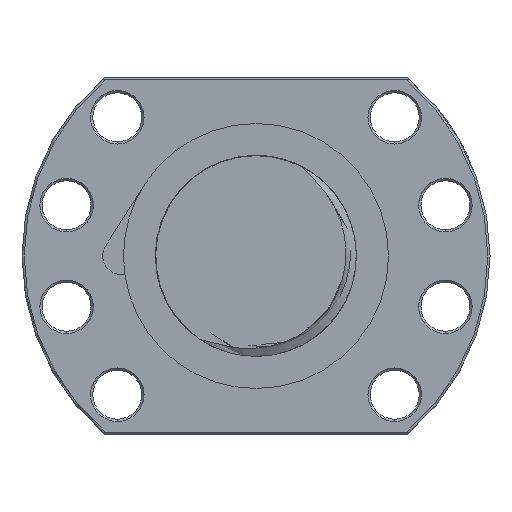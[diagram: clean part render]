
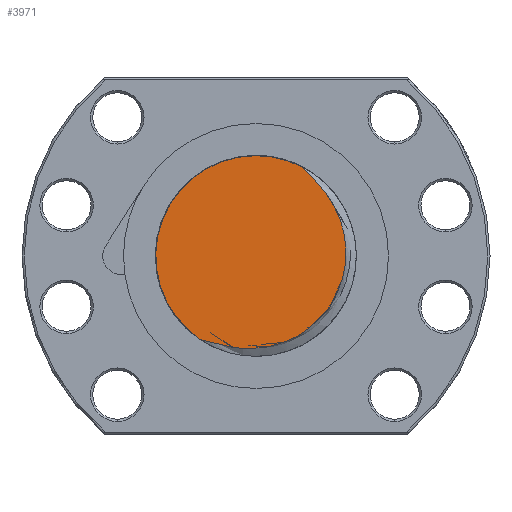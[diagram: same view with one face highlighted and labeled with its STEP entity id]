
A CAD part, left-side view. The second image highlights one B-rep face of the part: STEP entity #3971.
In plain terms, the highlighted planar face has unit normal (-1, 0, 0).
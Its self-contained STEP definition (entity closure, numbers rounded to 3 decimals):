
#3733 = EDGE_CURVE ( 'NONE', #3734, #3735, #20021, .T. ) ;
#3734 = VERTEX_POINT ( 'NONE', #20017 ) ;
#3735 = VERTEX_POINT ( 'NONE', #20016 ) ;
#3971 = ADVANCED_FACE ( 'NONE', ( #24610 ), #24609, .F. ) ;
#3972 = EDGE_LOOP ( 'NONE', ( #4018, #4019, #4021 ) ) ;
#4003 = EDGE_CURVE ( 'NONE', #3735, #4004, #24622, .T. ) ;
#4004 = VERTEX_POINT ( 'NONE', #24731 ) ;
#4018 = ORIENTED_EDGE ( 'NONE', *, *, #3733, .F. ) ;
#4019 = ORIENTED_EDGE ( 'NONE', *, *, #4020, .T. ) ;
#4020 = EDGE_CURVE ( 'NONE', #3734, #4004, #24855, .T. ) ;
#4021 = ORIENTED_EDGE ( 'NONE', *, *, #4003, .F. ) ;
#20016 = CARTESIAN_POINT ( 'NONE',  ( -149., 0., 22.5 ) ) ;
#20017 = CARTESIAN_POINT ( 'NONE',  ( -149., 12.337, -18.816 ) ) ;
#20018 = DIRECTION ( 'NONE',  ( 0., 1., 0. ) ) ;
#20019 = DIRECTION ( 'NONE',  ( 1., 0., 0. ) ) ;
#20020 = AXIS2_PLACEMENT_3D ( 'NONE', #20027, #20019, #20018 ) ;
#20021 = CIRCLE ( 'NONE', #20020, 22.5 ) ;
#20027 = CARTESIAN_POINT ( 'NONE',  ( -149., 0., 0. ) ) ;
#24537 = CARTESIAN_POINT ( 'NONE',  ( -149., 0., 0. ) ) ;
#24602 = DIRECTION ( 'NONE',  ( 0., 0., -1. ) ) ;
#24603 = DIRECTION ( 'NONE',  ( 1., 0., 0. ) ) ;
#24604 = AXIS2_PLACEMENT_3D ( 'NONE', #24537, #24603, #24602 ) ;
#24609 = PLANE ( 'NONE',  #24604 ) ;
#24610 = FACE_OUTER_BOUND ( 'NONE', #3972, .T. ) ;
#24622 = CIRCLE ( 'NONE', #24735, 22.5 ) ;
#24731 = CARTESIAN_POINT ( 'NONE',  ( -149., -10.131, 20.09 ) ) ;
#24732 = DIRECTION ( 'NONE',  ( 0., 1., 0. ) ) ;
#24733 = DIRECTION ( 'NONE',  ( 1., 0., 0. ) ) ;
#24734 = CARTESIAN_POINT ( 'NONE',  ( -149., 0., 0. ) ) ;
#24735 = AXIS2_PLACEMENT_3D ( 'NONE', #24734, #24733, #24732 ) ;
#24823 = CARTESIAN_POINT ( 'NONE',  ( -149., -16.593, -11.232 ) ) ;
#24824 = CARTESIAN_POINT ( 'NONE',  ( -149., -15.972, -12.093 ) ) ;
#24825 = CARTESIAN_POINT ( 'NONE',  ( -149., -15.757, -12.376 ) ) ;
#24826 = CARTESIAN_POINT ( 'NONE',  ( -149., -15.316, -12.928 ) ) ;
#24827 = CARTESIAN_POINT ( 'NONE',  ( -149., -15.089, -13.198 ) ) ;
#24828 = CARTESIAN_POINT ( 'NONE',  ( -149., -13.927, -14.514 ) ) ;
#24829 = CARTESIAN_POINT ( 'NONE',  ( -149., -12.903, -15.467 ) ) ;
#24830 = CARTESIAN_POINT ( 'NONE',  ( -149., -11.504, -16.53 ) ) ;
#24831 = CARTESIAN_POINT ( 'NONE',  ( -149., -11.219, -16.736 ) ) ;
#24832 = CARTESIAN_POINT ( 'NONE',  ( -149., -10.635, -17.136 ) ) ;
#24833 = CARTESIAN_POINT ( 'NONE',  ( -149., -10.337, -17.329 ) ) ;
#24834 = CARTESIAN_POINT ( 'NONE',  ( -149., -9.433, -17.884 ) ) ;
#24835 = CARTESIAN_POINT ( 'NONE',  ( -149., -8.817, -18.222 ) ) ;
#24836 = CARTESIAN_POINT ( 'NONE',  ( -149., -6.933, -19.143 ) ) ;
#24837 = CARTESIAN_POINT ( 'NONE',  ( -149., -5.626, -19.635 ) ) ;
#24838 = CARTESIAN_POINT ( 'NONE',  ( -149., -3.59, -20.187 ) ) ;
#24839 = CARTESIAN_POINT ( 'NONE',  ( -149., -2.895, -20.34 ) ) ;
#24840 = CARTESIAN_POINT ( 'NONE',  ( -149., -1.503, -20.577 ) ) ;
#24841 = CARTESIAN_POINT ( 'NONE',  ( -149., -0.806, -20.663 ) ) ;
#24842 = CARTESIAN_POINT ( 'NONE',  ( -149., 1.286, -20.826 ) ) ;
#24843 = CARTESIAN_POINT ( 'NONE',  ( -149., 2.685, -20.811 ) ) ;
#24844 = CARTESIAN_POINT ( 'NONE',  ( -149., 4.787, -20.613 ) ) ;
#24845 = CARTESIAN_POINT ( 'NONE',  ( -149., 5.491, -20.517 ) ) ;
#24846 = CARTESIAN_POINT ( 'NONE',  ( -149., 6.883, -20.272 ) ) ;
#24847 = CARTESIAN_POINT ( 'NONE',  ( -149., 7.573, -20.123 ) ) ;
#24848 = CARTESIAN_POINT ( 'NONE',  ( -149., 8.942, -19.782 ) ) ;
#24849 = CARTESIAN_POINT ( 'NONE',  ( -149., 9.621, -19.59 ) ) ;
#24850 = CARTESIAN_POINT ( 'NONE',  ( -149., 10.637, -19.29 ) ) ;
#24851 = CARTESIAN_POINT ( 'NONE',  ( -149., 10.976, -19.188 ) ) ;
#24852 = CARTESIAN_POINT ( 'NONE',  ( -149., 11.653, -18.99 ) ) ;
#24853 = CARTESIAN_POINT ( 'NONE',  ( -149., 11.993, -18.893 ) ) ;
#24854 = CARTESIAN_POINT ( 'NONE',  ( -149., 12.337, -18.816 ) ) ;
#24855 = B_SPLINE_CURVE_WITH_KNOTS ( 'NONE', 3,
 ( #24854, #24853, #24852, #24851, #24850, #24849, #24848, #24847, #24846, #24845, #24844, #24843, #24842, #24841, #24840, #24839, #24838, #24837, #24836, #24835, #24834, #24833, #24832, #24831, #24830, #24829, #24828, #24827, #24826, #24825, #24824, #24823, #24902, #24901, #24900, #24899, #24898, #24897, #24896, #24895, #24894, #24893, #24892, #24891, #24890, #24889, #24888, #24887, #24886, #24885, #24884, #24883, #24882, #24881, #24880, #24879, #24878, #24877, #24876, #24875, #24874, #24873, #24872, #24871 ),
 .UNSPECIFIED., .F., .F.,
 ( 4, 2, 2, 2, 2, 2, 2, 2, 2, 2, 2, 2, 2, 2, 2, 2, 2, 2, 2, 2, 2, 2, 2, 2, 2, 2, 2, 2, 2, 2, 2, 4 ),
 ( 0.007, 0.008, 0.009, 0.011, 0.013, 0.015, 0.02, 0.022, 0.024, 0.028, 0.03, 0.031, 0.032, 0.037, 0.038, 0.039, 0.041, 0.045, 0.046, 0.047, 0.049, 0.051, 0.053, 0.058, 0.06, 0.062, 0.066, 0.068, 0.07, 0.073, 0.074, 0.075 ),
 .UNSPECIFIED. ) ;
#24871 = CARTESIAN_POINT ( 'NONE',  ( -149., -10.131, 20.09 ) ) ;
#24872 = CARTESIAN_POINT ( 'NONE',  ( -149., -10.371, 19.83 ) ) ;
#24873 = CARTESIAN_POINT ( 'NONE',  ( -149., -10.626, 19.584 ) ) ;
#24874 = CARTESIAN_POINT ( 'NONE',  ( -149., -11.139, 19.094 ) ) ;
#24875 = CARTESIAN_POINT ( 'NONE',  ( -149., -11.397, 18.852 ) ) ;
#24876 = CARTESIAN_POINT ( 'NONE',  ( -149., -12.167, 18.119 ) ) ;
#24877 = CARTESIAN_POINT ( 'NONE',  ( -149., -12.674, 17.624 ) ) ;
#24878 = CARTESIAN_POINT ( 'NONE',  ( -149., -13.654, 16.603 ) ) ;
#24879 = CARTESIAN_POINT ( 'NONE',  ( -149., -14.128, 16.078 ) ) ;
#24880 = CARTESIAN_POINT ( 'NONE',  ( -149., -15.036, 14.993 ) ) ;
#24881 = CARTESIAN_POINT ( 'NONE',  ( -149., -15.47, 14.432 ) ) ;
#24882 = CARTESIAN_POINT ( 'NONE',  ( -149., -16.695, 12.709 ) ) ;
#24883 = CARTESIAN_POINT ( 'NONE',  ( -149., -17.41, 11.504 ) ) ;
#24884 = CARTESIAN_POINT ( 'NONE',  ( -149., -18.314, 9.601 ) ) ;
#24885 = CARTESIAN_POINT ( 'NONE',  ( -149., -18.587, 8.95 ) ) ;
#24886 = CARTESIAN_POINT ( 'NONE',  ( -149., -19.075, 7.618 ) ) ;
#24887 = CARTESIAN_POINT ( 'NONE',  ( -149., -19.286, 6.945 ) ) ;
#24888 = CARTESIAN_POINT ( 'NONE',  ( -149., -19.822, 4.909 ) ) ;
#24889 = CARTESIAN_POINT ( 'NONE',  ( -149., -20.052, 3.526 ) ) ;
#24890 = CARTESIAN_POINT ( 'NONE',  ( -149., -20.194, 1.414 ) ) ;
#24891 = CARTESIAN_POINT ( 'NONE',  ( -149., -20.207, 0.701 ) ) ;
#24892 = CARTESIAN_POINT ( 'NONE',  ( -149., -20.162, -0.707 ) ) ;
#24893 = CARTESIAN_POINT ( 'NONE',  ( -149., -20.105, -1.406 ) ) ;
#24894 = CARTESIAN_POINT ( 'NONE',  ( -149., -19.924, -2.795 ) ) ;
#24895 = CARTESIAN_POINT ( 'NONE',  ( -149., -19.8, -3.485 ) ) ;
#24896 = CARTESIAN_POINT ( 'NONE',  ( -149., -19.562, -4.512 ) ) ;
#24897 = CARTESIAN_POINT ( 'NONE',  ( -149., -19.475, -4.853 ) ) ;
#24898 = CARTESIAN_POINT ( 'NONE',  ( -149., -19.282, -5.533 ) ) ;
#24899 = CARTESIAN_POINT ( 'NONE',  ( -149., -19.176, -5.873 ) ) ;
#24900 = CARTESIAN_POINT ( 'NONE',  ( -149., -18.61, -7.549 ) ) ;
#24901 = CARTESIAN_POINT ( 'NONE',  ( -149., -18.031, -8.825 ) ) ;
#24902 = CARTESIAN_POINT ( 'NONE',  ( -149., -16.976, -10.642 ) ) ;
